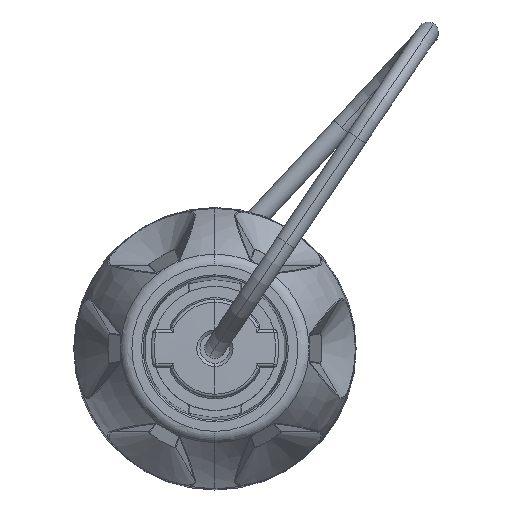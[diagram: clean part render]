
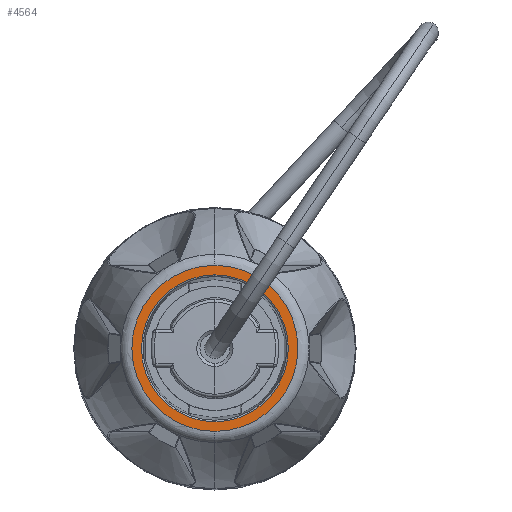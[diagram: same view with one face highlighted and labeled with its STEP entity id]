
A CAD part, top view. The second image highlights one B-rep face of the part: STEP entity #4564.
In plain terms, the highlighted planar face has unit normal (0, 0, 1).
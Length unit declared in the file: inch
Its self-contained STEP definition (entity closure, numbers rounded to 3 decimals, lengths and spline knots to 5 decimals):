
#223 = EDGE_CURVE ( 'NONE', #10251, #7253, #9516, .T. ) ;
#935 = CIRCLE ( 'NONE', #4465, 0.23126 ) ;
#1943 = CIRCLE ( 'NONE', #2175, 0.26149 ) ;
#2175 = AXIS2_PLACEMENT_3D ( 'NONE', #5386, #11316, #7985 ) ;
#2658 = EDGE_CURVE ( 'NONE', #4109, #5994, #4363, .T. ) ;
#2669 = CARTESIAN_POINT ( 'NONE',  ( 0., -0.26149, 0.74803 ) ) ;
#3523 = CARTESIAN_POINT ( 'NONE',  ( 0.22642, 0., 0.74803 ) ) ;
#3863 = ORIENTED_EDGE ( 'NONE', *, *, #8305, .T. ) ;
#4109 = VERTEX_POINT ( 'NONE', #13179 ) ;
#4363 = CIRCLE ( 'NONE', #8376, 0.26149 ) ;
#4423 = DIRECTION ( 'NONE',  ( 0., -1., 0. ) ) ;
#4465 = AXIS2_PLACEMENT_3D ( 'NONE', #8921, #14361, #7492 ) ;
#4564 = ADVANCED_FACE ( 'NONE', ( #4636, #9163 ), #13655, .T. ) ;
#4636 = FACE_BOUND ( 'NONE', #10870, .T. ) ;
#5386 = CARTESIAN_POINT ( 'NONE',  ( 0., 0., 0.74803 ) ) ;
#5994 = VERTEX_POINT ( 'NONE', #2669 ) ;
#6406 = DIRECTION ( 'NONE',  ( 0., 0., -1. ) ) ;
#6564 = CARTESIAN_POINT ( 'NONE',  ( 0., 0., 0.74803 ) ) ;
#6740 = AXIS2_PLACEMENT_3D ( 'NONE', #3523, #8054, #12560 ) ;
#6917 = EDGE_LOOP ( 'NONE', ( #12928, #13124 ) ) ;
#7253 = VERTEX_POINT ( 'NONE', #10690 ) ;
#7492 = DIRECTION ( 'NONE',  ( 0., -1., 0. ) ) ;
#7985 = DIRECTION ( 'NONE',  ( 0., 1., 0. ) ) ;
#8054 = DIRECTION ( 'NONE',  ( 0., 0., 1. ) ) ;
#8305 = EDGE_CURVE ( 'NONE', #7253, #10251, #935, .T. ) ;
#8376 = AXIS2_PLACEMENT_3D ( 'NONE', #11089, #6406, #9983 ) ;
#8882 = DIRECTION ( 'NONE',  ( 0., 0., -1. ) ) ;
#8921 = CARTESIAN_POINT ( 'NONE',  ( 0., 0., 0.74803 ) ) ;
#9163 = FACE_OUTER_BOUND ( 'NONE', #6917, .T. ) ;
#9516 = CIRCLE ( 'NONE', #10463, 0.23126 ) ;
#9983 = DIRECTION ( 'NONE',  ( 0., 1., 0. ) ) ;
#10251 = VERTEX_POINT ( 'NONE', #10352 ) ;
#10352 = CARTESIAN_POINT ( 'NONE',  ( 0., 0.23126, 0.74803 ) ) ;
#10463 = AXIS2_PLACEMENT_3D ( 'NONE', #6564, #8882, #4423 ) ;
#10690 = CARTESIAN_POINT ( 'NONE',  ( 0., -0.23126, 0.74803 ) ) ;
#10870 = EDGE_LOOP ( 'NONE', ( #3863, #13987 ) ) ;
#11089 = CARTESIAN_POINT ( 'NONE',  ( 0., 0., 0.74803 ) ) ;
#11316 = DIRECTION ( 'NONE',  ( 0., 0., -1. ) ) ;
#12560 = DIRECTION ( 'NONE',  ( 0., -1., 0. ) ) ;
#12928 = ORIENTED_EDGE ( 'NONE', *, *, #2658, .F. ) ;
#13124 = ORIENTED_EDGE ( 'NONE', *, *, #13432, .F. ) ;
#13179 = CARTESIAN_POINT ( 'NONE',  ( 0., 0.26149, 0.74803 ) ) ;
#13432 = EDGE_CURVE ( 'NONE', #5994, #4109, #1943, .T. ) ;
#13655 = PLANE ( 'NONE',  #6740 ) ;
#13987 = ORIENTED_EDGE ( 'NONE', *, *, #223, .T. ) ;
#14361 = DIRECTION ( 'NONE',  ( 0., 0., -1. ) ) ;
